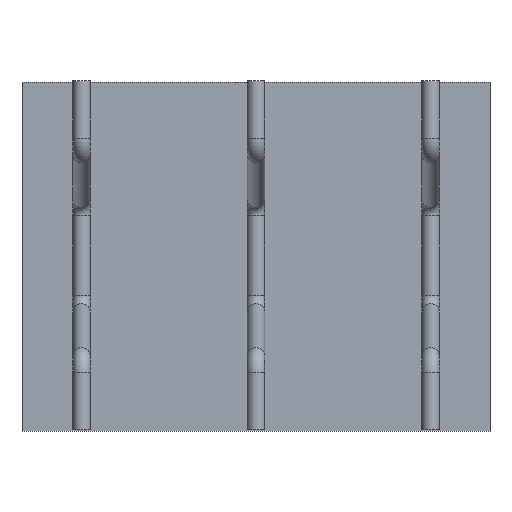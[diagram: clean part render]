
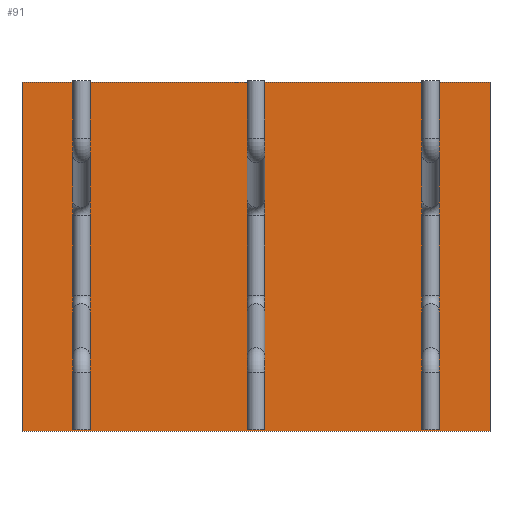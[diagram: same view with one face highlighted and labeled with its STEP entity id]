
A CAD part, top view. The second image highlights one B-rep face of the part: STEP entity #91.
In plain terms, the highlighted planar face has unit normal (0, 0, 1).
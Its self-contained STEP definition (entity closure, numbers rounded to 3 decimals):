
#52=CARTESIAN_POINT('Axis2P3D Location',(0.,0.,0.)) ;
#57=CARTESIAN_POINT('Line Origine',(0.,500.,0.)) ;
#61=CARTESIAN_POINT('Vertex',(670.,500.,0.)) ;
#63=CARTESIAN_POINT('Vertex',(-670.,500.,0.)) ;
#66=CARTESIAN_POINT('Line Origine',(-670.,0.,0.)) ;
#70=CARTESIAN_POINT('Vertex',(-670.,-500.,0.)) ;
#73=CARTESIAN_POINT('Line Origine',(0.,-500.,0.)) ;
#77=CARTESIAN_POINT('Vertex',(670.,-500.,0.)) ;
#80=CARTESIAN_POINT('Line Origine',(670.,0.,0.)) ;
#53=DIRECTION('Axis2P3D Direction',(0.,0.,1.)) ;
#54=DIRECTION('Axis2P3D XDirection',(1.,0.,0.)) ;
#58=DIRECTION('Vector Direction',(1.,0.,0.)) ;
#67=DIRECTION('Vector Direction',(0.,1.,0.)) ;
#74=DIRECTION('Vector Direction',(-1.,0.,0.)) ;
#81=DIRECTION('Vector Direction',(0.,-1.,0.)) ;
#55=AXIS2_PLACEMENT_3D('Plane Axis2P3D',#52,#53,#54) ;
#86=ORIENTED_EDGE('',*,*,#65,.T.) ;
#87=ORIENTED_EDGE('',*,*,#72,.T.) ;
#88=ORIENTED_EDGE('',*,*,#79,.T.) ;
#89=ORIENTED_EDGE('',*,*,#84,.T.) ;
#59=VECTOR('Line Direction',#58,1.) ;
#68=VECTOR('Line Direction',#67,1.) ;
#75=VECTOR('Line Direction',#74,1.) ;
#82=VECTOR('Line Direction',#81,1.) ;
#91=ADVANCED_FACE('Fill.1',(#90),#56,.T.) ;
#65=EDGE_CURVE('',#62,#64,#60,.F.) ;
#72=EDGE_CURVE('',#64,#71,#69,.F.) ;
#79=EDGE_CURVE('',#71,#78,#76,.F.) ;
#84=EDGE_CURVE('',#78,#62,#83,.F.) ;
#85=EDGE_LOOP('',(#86,#87,#88,#89)) ;
#90=FACE_OUTER_BOUND('',#85,.T.) ;
#60=LINE('Line',#57,#59) ;
#69=LINE('Line',#66,#68) ;
#76=LINE('Line',#73,#75) ;
#83=LINE('Line',#80,#82) ;
#56=PLANE('',#55) ;
#62=VERTEX_POINT('',#61) ;
#64=VERTEX_POINT('',#63) ;
#71=VERTEX_POINT('',#70) ;
#78=VERTEX_POINT('',#77) ;
